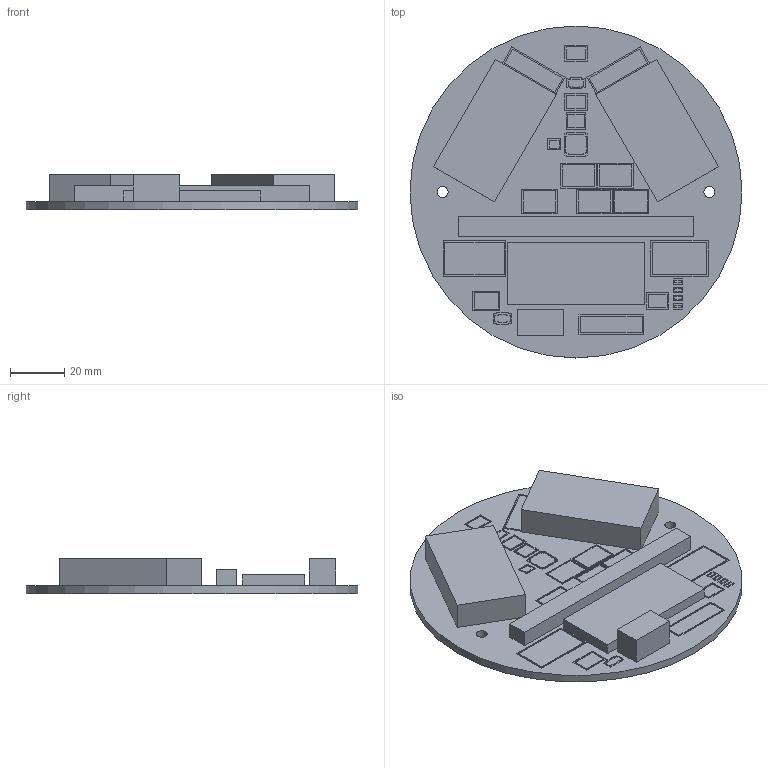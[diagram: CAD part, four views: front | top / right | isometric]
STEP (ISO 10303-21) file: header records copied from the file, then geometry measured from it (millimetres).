
FILE_DESCRIPTION(('Open CASCADE Model'),'2;1');
FILE_NAME('Open CASCADE Shape Model','2026-10-01T15:23:50',('Author'),( 'Open CASCADE'),'Open CASCADE STEP processor 7.9','Open CASCADE 7.9' ,'Unknown');
FILE_SCHEMA(('AUTOMOTIVE_DESIGN { 1 0 10303 214 1 1 1 1 }'));
Length unit declared in the file: millimetre
Products named in the file (1): Open CASCADE STEP translator 7.9 4
Bounding box: 122 x 122 x 13 mm (x, y, z)
Volume: 68572 mm3; surface area: 30292.3 mm2
Topology: 1 solids, 1 shells, 342 faces, 869 edges, 578 vertices
Faces by surface type: plane 339, cylinder 3
Full cylindrical faces by diameter (mm): 4 x2, 122 x1
Entity records: 20638 total; most frequent: CARTESIAN_POINT 4328, DIRECTION 2519, LINE 1819, VECTOR 1819, ORIENTED_EDGE 1738, PCURVE 1738, DEFINITIONAL_REPRESENTATION 1738, EDGE_CURVE 869
